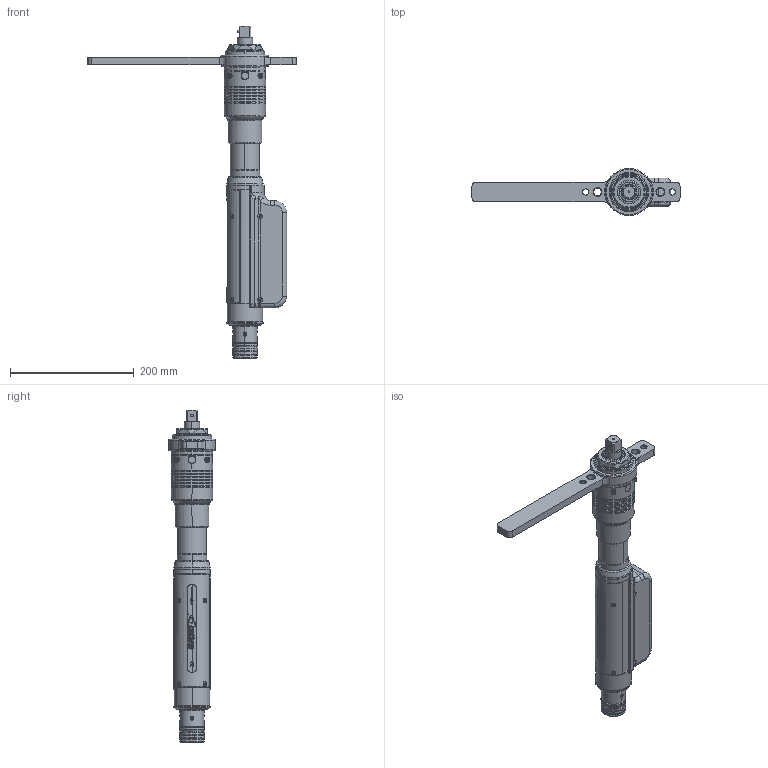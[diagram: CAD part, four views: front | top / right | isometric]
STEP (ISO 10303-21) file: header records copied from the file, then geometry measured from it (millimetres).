
FILE_DESCRIPTION (( 'STEP AP214' ), '1' );
FILE_NAME ('AEF35_ _ _A.STEP', '2015-08-04T19:02:41', ( 'AIMCO' ), ( '' ), 'SwSTEP 2.0', 'SolidWorks 2015', '' );
FILE_SCHEMA (( 'AUTOMOTIVE_DESIGN' ));
Length unit declared in the file: inch
Products named in the file (1): AEF35_ _ _A
Bounding box: 336.55 x 76.2 x 537.18 mm (x, y, z)
Surface area: 212427.2 mm2 (no closed solid volume)
Topology: 0 solids, 74 shells, 954 faces, 3100 edges, 2135 vertices
Faces by surface type: cylinder 306, plane 219, cone 194, torus 138, bspline 94, sphere 3
Entity records: 55474 total; most frequent: CARTESIAN_POINT 17535, DIRECTION 5092, ORIENTED_EDGE 4884, EDGE_CURVE 3090, VERTEX_POINT 2135, AXIS2_PLACEMENT_3D 1922, VECTOR 1248, LINE 1248
